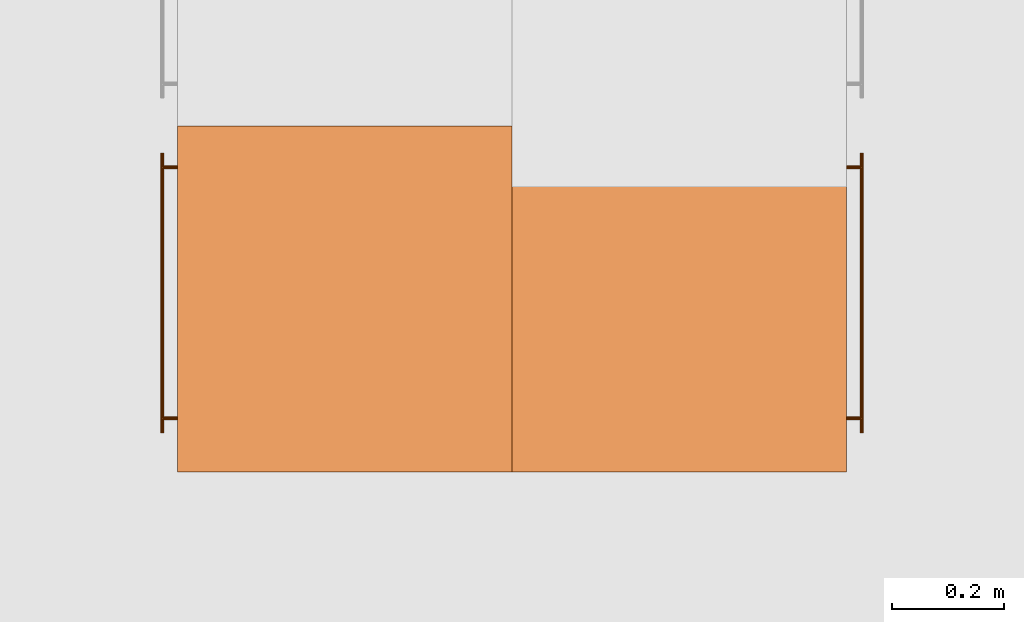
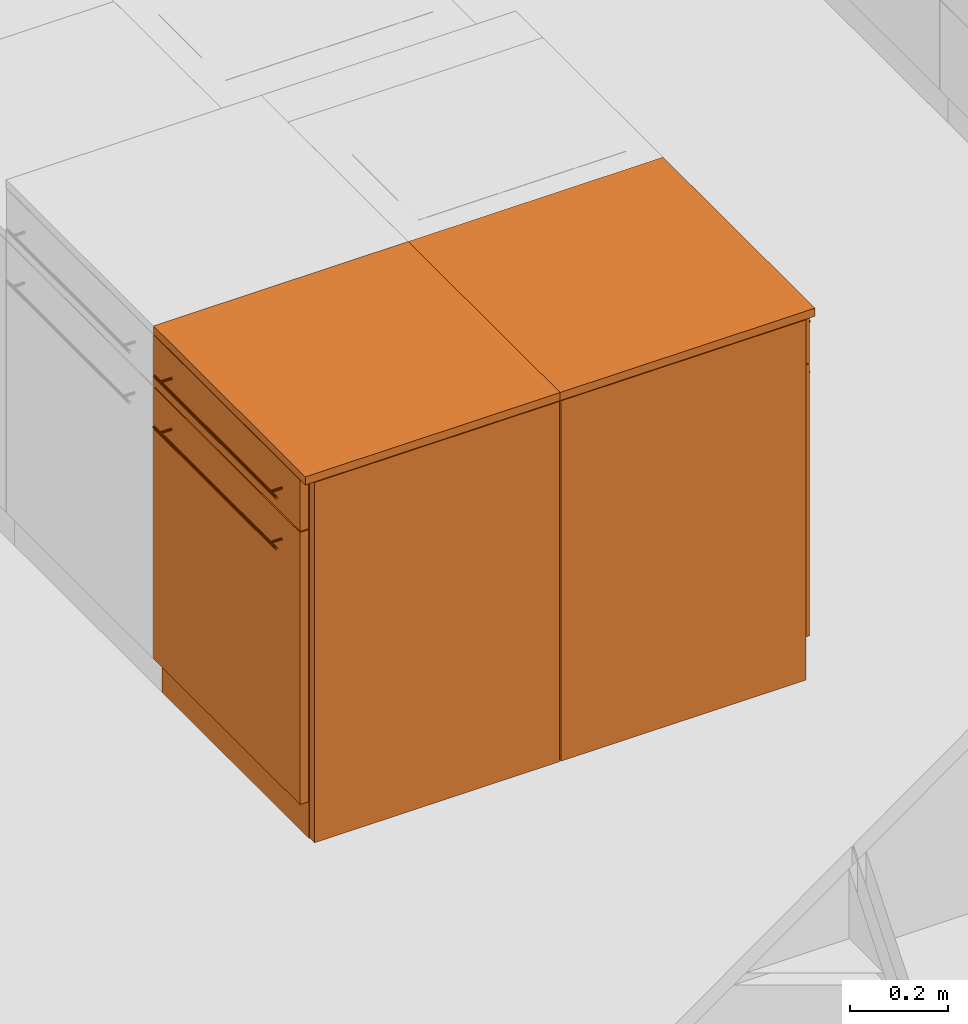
# One storey, part 142 of 167: 2 proxies.
"""IFC2X3 building model written with IfcOpenShell, lengths in millimetres."""

from ifc_helpers import new_model, entity, si_unit, converted_unit, derived_unit, money_unit, direction, frame, origin_with_axes, place, context, subcontext, project, spatial, open_shell, faceted_brep, surface_model, type_object, element, save


model = new_model("IFC2X3")

# Units and contexts
model_context = context("Model", 3, precision=0.01, world=origin_with_axes(), true_north=direction((0.0, 1.0)))
plan_context = context("Plan", 3, precision=0.01, world=origin_with_axes(), true_north=direction((0.0, 1.0)))
body_context = subcontext(model_context, "Body", "Model", "MODEL_VIEW")
ifc_project = project(units=[si_unit("LENGTHUNIT", "METRE", prefix="MILLI"), si_unit("AREAUNIT", "SQUARE_METRE"), si_unit("VOLUMEUNIT", "CUBIC_METRE"), converted_unit("PLANEANGLEUNIT", "DEGREE", entity("IfcPlaneAngleMeasure", 0.0174532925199), si_unit("PLANEANGLEUNIT", "RADIAN"), dimensions=[0, 0, 0, 0, 0, 0, 0]), si_unit("SOLIDANGLEUNIT", "STERADIAN"), money_unit("EUR"), converted_unit("TIMEUNIT", "Year", entity("IfcTimeMeasure", 31556926.0), si_unit("TIMEUNIT", "SECOND"), dimensions=[0, 0, 1, 0, 0, 0, 0]), si_unit("MASSUNIT", "GRAM", prefix="KILO"), si_unit("THERMODYNAMICTEMPERATUREUNIT", "DEGREE_CELSIUS"), si_unit("LUMINOUSINTENSITYUNIT", "LUMEN"), si_unit("ENERGYUNIT", "JOULE", prefix="MEGA"), derived_unit("THERMALCONDUCTANCEUNIT", [(si_unit("POWERUNIT", "WATT"), 1), (si_unit("LENGTHUNIT", "METRE"), -1), (si_unit("THERMODYNAMICTEMPERATUREUNIT", "KELVIN"), -1)]), derived_unit("SPECIFICHEATCAPACITYUNIT", [(si_unit("ENERGYUNIT", "JOULE"), 1), (si_unit("MASSUNIT", "GRAM", prefix="KILO"), -1), (si_unit("THERMODYNAMICTEMPERATUREUNIT", "KELVIN"), -1)]), derived_unit("MASSDENSITYUNIT", [(si_unit("MASSUNIT", "GRAM", prefix="KILO"), 1), (si_unit("VOLUMEUNIT", "CUBIC_METRE"), -1)])], contexts=[model_context, plan_context])

# Site, building, storey
site_placement = place(None, origin_with_axes())
site = spatial("IfcSite", under=ifc_project, at=site_placement, Name="Site", CompositionType="ELEMENT")
building_placement = place(site_placement, origin_with_axes())
building = spatial("IfcBuilding", under=site, at=building_placement, Name="Naam gebouw", CompositionType="ELEMENT")
storey_placement = place(building_placement, origin_with_axes())
storey = spatial("IfcBuildingStorey", under=building, at=storey_placement, Name="Begane grond", CompositionType="ELEMENT", Elevation=0.0)

# Proxies
building_element_proxy_type = type_object("IfcBuildingElementProxyType", Name="Kast basis 1D 24", PredefinedType="NOTDEFINED")
proxy_1_placement = place(storey_placement, frame((25475.0, 26466.7322881, 0.0), z_axis=(0.0, 0.0, 1.0), x_axis=(0.0, -1.0, 0.0)))
element("IfcBuildingElementProxy", 1, at=proxy_1_placement, inside=storey, type_object=building_element_proxy_type, Name="__Object-x", context=body_context, shape_type="SurfaceModel", body=[
    faceted_brep([(20.0, 20.0, 760.0), (580.0, 20.0, 760.0), (580.0, 20.0, 780.0), (20.0, 20.0, 780.0), (20.0, 580.0, 760.0), (580.0, 580.0, 760.0), (580.0, 580.0, 780.0), (20.0, 580.0, 780.0)], [[[0, 1, 2, 3]], [[0, 4, 5, 1]], [[1, 5, 6, 2]], [[3, 2, 6, 7]], [[4, 0, 3, 7]], [[5, 4, 7, 6]]]),
    faceted_brep([(0.0, 20.0, 0.0), (600.0, 20.0, 0.0), (600.0, 20.0, 90.0), (0.0, 20.0, 90.0), (0.0, 600.0, 0.0), (600.0, 600.0, 0.0), (600.0, 600.0, 90.0), (0.0, 600.0, 90.0)], [[[0, 1, 2, 3]], [[0, 4, 5, 1]], [[1, 5, 6, 2]], [[3, 2, 6, 7]], [[4, 0, 3, 7]], [[5, 4, 7, 6]]]),
    faceted_brep([(0.0, 20.0, 880.0), (20.0, 20.0, 880.0), (20.0, 20.0, 900.0), (0.0, 20.0, 900.0), (0.0, 600.0, 880.0), (20.0, 600.0, 880.0), (580.0, 600.0, 880.0), (600.0, 600.0, 880.0), (600.0, 20.0, 880.0), (580.0, 20.0, 880.0), (580.0, 20.0, 900.0), (600.0, 20.0, 900.0), (600.0, 600.0, 900.0), (580.0, 600.0, 900.0), (20.0, 600.0, 900.0), (0.0, 600.0, 900.0)], [[[0, 1, 2, 3]], [[0, 4, 5, 6, 7, 8, 9, 1]], [[1, 9, 10, 2]], [[3, 2, 10, 11, 12, 13, 14, 15]], [[4, 0, 3, 15]], [[5, 4, 15, 14]], [[6, 5, 14, 13]], [[7, 6, 13, 12]], [[8, 7, 12, 11]], [[9, 8, 11, 10]]]),
    faceted_brep([(0.0, 20.0, 90.0), (20.0, 20.0, 90.0), (20.0, 20.0, 110.0), (0.0, 20.0, 110.0), (0.0, 600.0, 90.0), (20.0, 600.0, 90.0), (580.0, 600.0, 90.0), (600.0, 600.0, 90.0), (600.0, 20.0, 90.0), (580.0, 20.0, 90.0), (580.0, 20.0, 110.0), (600.0, 20.0, 110.0), (600.0, 600.0, 110.0), (580.0, 600.0, 110.0), (20.0, 600.0, 110.0), (0.0, 600.0, 110.0)], [[[0, 1, 2, 3]], [[0, 4, 5, 6, 7, 8, 9, 1]], [[1, 9, 10, 2]], [[3, 2, 10, 11, 12, 13, 14, 15]], [[4, 0, 3, 15]], [[5, 4, 15, 14]], [[6, 5, 14, 13]], [[7, 6, 13, 12]], [[8, 7, 12, 11]], [[9, 8, 11, 10]]]),
    faceted_brep([(0.0, 20.0, 110.0), (20.0, 20.0, 110.0), (20.0, 20.0, 880.0), (0.0, 20.0, 880.0), (0.0, 600.0, 110.0), (600.0, 600.0, 110.0), (600.0, 20.0, 110.0), (580.0, 20.0, 110.0), (580.0, 580.0, 110.0), (20.0, 580.0, 110.0), (20.0, 580.0, 880.0), (580.0, 580.0, 880.0), (580.0, 20.0, 880.0), (600.0, 20.0, 880.0), (600.0, 600.0, 880.0), (0.0, 600.0, 880.0)], [[[0, 1, 2, 3]], [[0, 4, 5, 6, 7, 8, 9, 1]], [[1, 9, 10, 2]], [[3, 2, 10, 11, 12, 13, 14, 15]], [[4, 0, 3, 15]], [[5, 4, 15, 14]], [[6, 5, 14, 13]], [[7, 6, 13, 12]], [[8, 7, 12, 11]], [[9, 8, 11, 10]]]),
    faceted_brep([(580.0, 20.0, 410.0), (580.0, 580.0, 410.0), (580.0, 580.0, 430.0), (580.0, 20.0, 430.0), (20.0, 20.0, 410.0), (20.0, 580.0, 410.0), (20.0, 580.0, 430.0), (20.0, 20.0, 430.0)], [[[0, 1, 2, 3]], [[0, 4, 5, 1]], [[1, 5, 6, 2]], [[3, 2, 6, 7]], [[4, 0, 3, 7]], [[5, 4, 7, 6]]]),
    faceted_brep([(0.0, 0.0, 900.0), (620.0, 0.0, 900.0), (620.0, 0.0, 920.0), (0.0, 0.0, 920.0), (0.0, 600.0, 900.0), (620.0, 600.0, 900.0), (620.0, 600.0, 920.0), (0.0, 600.0, 920.0)], [[[0, 1, 2, 3]], [[0, 4, 5, 1]], [[1, 5, 6, 2]], [[3, 2, 6, 7]], [[4, 0, 3, 7]], [[5, 4, 7, 6]]]),
    faceted_brep([(1.5, 20.0, 771.5), (598.5, 20.0, 771.5), (598.5, 0.0, 771.5), (1.5, 0.0, 771.5), (1.5, 20.0, 898.5), (598.5, 20.0, 898.5), (598.5, 0.0, 898.5), (1.5, 0.0, 898.5)], [[[0, 1, 2, 3]], [[0, 4, 5, 1]], [[1, 5, 6, 2]], [[3, 2, 6, 7]], [[4, 0, 3, 7]], [[5, 4, 7, 6]]]),
    faceted_brep([(50.0, -28.1480502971, 832.228361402), (50.0, -29.1213203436, 832.878679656), (50.0, -29.7716385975, 833.851949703), (50.0, -30.0, 835.0), (50.0, -29.7716385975, 836.148050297), (50.0, -29.1213203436, 837.121320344), (50.0, -28.1480502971, 837.771638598), (50.0, -27.0, 838.0), (50.0, -25.8519497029, 837.771638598), (50.0, -24.8786796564, 837.121320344), (50.0, -24.2283614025, 836.148050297), (50.0, -24.0, 835.0), (50.0, -24.2283614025, 833.851949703), (50.0, -24.8786796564, 832.878679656), (50.0, -25.8519497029, 832.228361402), (50.0, -27.0, 832.0), (550.0, -28.1480502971, 832.228361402), (550.0, -29.1213203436, 832.878679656), (550.0, -29.7716385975, 833.851949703), (550.0, -30.0, 835.0), (550.0, -29.7716385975, 836.148050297), (550.0, -29.1213203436, 837.121320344), (550.0, -28.1480502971, 837.771638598), (550.0, -27.0, 838.0), (550.0, -25.8519497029, 837.771638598), (550.0, -24.8786796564, 837.121320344), (550.0, -24.2283614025, 836.148050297), (550.0, -24.0, 835.0), (550.0, -24.2283614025, 833.851949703), (550.0, -24.8786796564, 832.878679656), (550.0, -25.8519497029, 832.228361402), (550.0, -27.0, 832.0)], [[[0, 1, 2, 3, 4, 5, 6, 7, 8, 9, 10, 11, 12, 13, 14, 15]], [[1, 0, 16, 17]], [[2, 1, 17, 18]], [[3, 2, 18, 19]], [[4, 3, 19, 20]], [[5, 4, 20, 21]], [[6, 5, 21, 22]], [[7, 6, 22, 23]], [[8, 7, 23, 24]], [[9, 8, 24, 25]], [[10, 9, 25, 26]], [[11, 10, 26, 27]], [[12, 11, 27, 28]], [[13, 12, 28, 29]], [[14, 13, 29, 30]], [[15, 14, 30, 31]], [[0, 15, 31, 16]], [[16, 31, 30, 29, 28, 27, 26, 25, 24, 23, 22, 21, 20, 19, 18, 17]]]),
    surface_model("IfcShellBasedSurfaceModel", [(72.6903011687, -24.156637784, 834.043291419), (72.5, -24.0, 835.0), (72.5, 0.0, 835.0), (72.6903011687, 0.0, 834.043291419), (72.6903011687, -24.156637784, 835.956708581), (72.6903011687, 0.0, 835.956708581), (73.232233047, 0.0, 836.767766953), (74.0432914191, 0.0, 837.309698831), (75.0, 0.0, 837.5), (75.9567085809, 0.0, 837.309698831), (76.767766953, 0.0, 836.767766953), (77.3096988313, 0.0, 835.956708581), (77.5, 0.0, 835.0), (77.3096988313, 0.0, 834.043291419), (76.767766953, 0.0, 833.232233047), (75.9567085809, 0.0, 832.690301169), (75.0, 0.0, 832.5), (74.0432914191, 0.0, 832.690301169), (73.232233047, 0.0, 833.232233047), (73.232233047, -24.5761600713, 833.232233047), (73.232233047, -24.5761600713, 836.767766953), (74.0432914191, -25.0855049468, 837.309698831), (75.0, -25.3416876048, 837.5), (75.9567085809, -25.0855049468, 837.309698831), (76.767766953, -24.5761600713, 836.767766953), (77.3096988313, -24.156637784, 835.956708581), (77.5, -24.0, 835.0), (77.3096988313, -24.156637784, 834.043291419), (76.767766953, -24.5761600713, 833.232233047), (75.9567085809, -25.0855049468, 832.690301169), (75.0, -25.3416876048, 832.5), (74.0432914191, -25.0855049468, 832.690301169)], [open_shell([[[0, 1, 2, 3]], [[1, 4, 5, 2]], [[3, 2, 5, 6, 7, 8, 9, 10, 11, 12, 13, 14, 15, 16, 17, 18]], [[19, 0, 3, 18]], [[4, 20, 6, 5]], [[20, 21, 7, 6]], [[21, 22, 8, 7]], [[22, 23, 9, 8]], [[23, 24, 10, 9]], [[24, 25, 11, 10]], [[25, 26, 12, 11]], [[26, 27, 13, 12]], [[27, 28, 14, 13]], [[28, 29, 15, 14]], [[29, 30, 16, 15]], [[30, 31, 17, 16]], [[31, 19, 18, 17]]])]),
    surface_model("IfcShellBasedSurfaceModel", [(522.690301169, -24.156637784, 834.043291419), (522.5, -24.0, 835.0), (522.5, 0.0, 835.0), (522.690301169, 0.0, 834.043291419), (522.690301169, -24.156637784, 835.956708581), (522.690301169, 0.0, 835.956708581), (523.232233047, 0.0, 836.767766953), (524.043291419, 0.0, 837.309698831), (525.0, 0.0, 837.5), (525.956708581, 0.0, 837.309698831), (526.767766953, 0.0, 836.767766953), (527.309698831, 0.0, 835.956708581), (527.5, 0.0, 835.0), (527.309698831, 0.0, 834.043291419), (526.767766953, 0.0, 833.232233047), (525.956708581, 0.0, 832.690301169), (525.0, 0.0, 832.5), (524.043291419, 0.0, 832.690301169), (523.232233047, 0.0, 833.232233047), (523.232233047, -24.5761600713, 833.232233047), (523.232233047, -24.5761600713, 836.767766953), (524.043291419, -25.0855049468, 837.309698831), (525.0, -25.3416876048, 837.5), (525.956708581, -25.0855049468, 837.309698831), (526.767766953, -24.5761600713, 836.767766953), (527.309698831, -24.156637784, 835.956708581), (527.5, -24.0, 835.0), (527.309698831, -24.156637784, 834.043291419), (526.767766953, -24.5761600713, 833.232233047), (525.956708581, -25.0855049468, 832.690301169), (525.0, -25.3416876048, 832.5), (524.043291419, -25.0855049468, 832.690301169)], [open_shell([[[0, 1, 2, 3]], [[1, 4, 5, 2]], [[3, 2, 5, 6, 7, 8, 9, 10, 11, 12, 13, 14, 15, 16, 17, 18]], [[19, 0, 3, 18]], [[4, 20, 6, 5]], [[20, 21, 7, 6]], [[21, 22, 8, 7]], [[22, 23, 9, 8]], [[23, 24, 10, 9]], [[24, 25, 11, 10]], [[25, 26, 12, 11]], [[26, 27, 13, 12]], [[27, 28, 14, 13]], [[28, 29, 15, 14]], [[29, 30, 16, 15]], [[30, 31, 17, 16]], [[31, 19, 18, 17]]])]),
    faceted_brep([(1.5, 20.0, 91.5), (598.5, 20.0, 91.5), (598.5, 0.0, 91.5), (1.5, 0.0, 91.5), (1.5, 20.0, 768.5), (598.5, 20.0, 768.5), (598.5, 0.0, 768.5), (1.5, 0.0, 768.5)], [[[0, 1, 2, 3]], [[0, 4, 5, 1]], [[1, 5, 6, 2]], [[3, 2, 6, 7]], [[4, 0, 3, 7]], [[5, 4, 7, 6]]]),
    faceted_brep([(48.5, -28.1480502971, 704.694261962), (48.5, -29.1213203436, 705.344580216), (48.5, -29.7716385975, 706.317850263), (48.5, -30.0, 707.46590056), (48.5, -29.7716385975, 708.613950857), (48.5, -29.1213203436, 709.587220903), (48.5, -28.1480502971, 710.237539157), (48.5, -27.0, 710.46590056), (48.5, -25.8519497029, 710.237539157), (48.5, -24.8786796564, 709.587220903), (48.5, -24.2283614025, 708.613950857), (48.5, -24.0, 707.46590056), (48.5, -24.2283614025, 706.317850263), (48.5, -24.8786796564, 705.344580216), (48.5, -25.8519497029, 704.694261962), (48.5, -27.0, 704.46590056), (548.5, -28.1480502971, 704.694261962), (548.5, -29.1213203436, 705.344580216), (548.5, -29.7716385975, 706.317850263), (548.5, -30.0, 707.46590056), (548.5, -29.7716385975, 708.613950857), (548.5, -29.1213203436, 709.587220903), (548.5, -28.1480502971, 710.237539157), (548.5, -27.0, 710.46590056), (548.5, -25.8519497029, 710.237539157), (548.5, -24.8786796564, 709.587220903), (548.5, -24.2283614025, 708.613950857), (548.5, -24.0, 707.46590056), (548.5, -24.2283614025, 706.317850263), (548.5, -24.8786796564, 705.344580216), (548.5, -25.8519497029, 704.694261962), (548.5, -27.0, 704.46590056)], [[[0, 1, 2, 3, 4, 5, 6, 7, 8, 9, 10, 11, 12, 13, 14, 15]], [[1, 0, 16, 17]], [[2, 1, 17, 18]], [[3, 2, 18, 19]], [[4, 3, 19, 20]], [[5, 4, 20, 21]], [[6, 5, 21, 22]], [[7, 6, 22, 23]], [[8, 7, 23, 24]], [[9, 8, 24, 25]], [[10, 9, 25, 26]], [[11, 10, 26, 27]], [[12, 11, 27, 28]], [[13, 12, 28, 29]], [[14, 13, 29, 30]], [[15, 14, 30, 31]], [[0, 15, 31, 16]], [[16, 31, 30, 29, 28, 27, 26, 25, 24, 23, 22, 21, 20, 19, 18, 17]]]),
    surface_model("IfcShellBasedSurfaceModel", [(71.1903011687, -24.156637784, 706.509191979), (71.0, -24.0, 707.46590056), (71.0, 0.0, 707.46590056), (71.1903011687, 0.0, 706.509191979), (71.1903011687, -24.156637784, 708.422609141), (71.1903011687, 0.0, 708.422609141), (71.732233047, 0.0, 709.233667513), (72.5432914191, 0.0, 709.775599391), (73.5, 0.0, 709.96590056), (74.4567085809, 0.0, 709.775599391), (75.267766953, 0.0, 709.233667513), (75.8096988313, 0.0, 708.422609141), (76.0, 0.0, 707.46590056), (75.8096988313, 0.0, 706.509191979), (75.267766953, 0.0, 705.698133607), (74.4567085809, 0.0, 705.156201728), (73.5, 0.0, 704.96590056), (72.5432914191, 0.0, 705.156201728), (71.732233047, 0.0, 705.698133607), (71.732233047, -24.5761600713, 705.698133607), (71.732233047, -24.5761600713, 709.233667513), (72.5432914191, -25.0855049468, 709.775599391), (73.5, -25.3416876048, 709.96590056), (74.4567085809, -25.0855049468, 709.775599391), (75.267766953, -24.5761600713, 709.233667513), (75.8096988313, -24.156637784, 708.422609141), (76.0, -24.0, 707.46590056), (75.8096988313, -24.156637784, 706.509191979), (75.267766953, -24.5761600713, 705.698133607), (74.4567085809, -25.0855049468, 705.156201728), (73.5, -25.3416876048, 704.96590056), (72.5432914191, -25.0855049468, 705.156201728)], [open_shell([[[0, 1, 2, 3]], [[1, 4, 5, 2]], [[3, 2, 5, 6, 7, 8, 9, 10, 11, 12, 13, 14, 15, 16, 17, 18]], [[19, 0, 3, 18]], [[4, 20, 6, 5]], [[20, 21, 7, 6]], [[21, 22, 8, 7]], [[22, 23, 9, 8]], [[23, 24, 10, 9]], [[24, 25, 11, 10]], [[25, 26, 12, 11]], [[26, 27, 13, 12]], [[27, 28, 14, 13]], [[28, 29, 15, 14]], [[29, 30, 16, 15]], [[30, 31, 17, 16]], [[31, 19, 18, 17]]])]),
    surface_model("IfcShellBasedSurfaceModel", [(521.190301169, -24.156637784, 706.509191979), (521.0, -24.0, 707.46590056), (521.0, 0.0, 707.46590056), (521.190301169, 0.0, 706.509191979), (521.190301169, -24.156637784, 708.422609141), (521.190301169, 0.0, 708.422609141), (521.732233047, 0.0, 709.233667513), (522.543291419, 0.0, 709.775599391), (523.5, 0.0, 709.96590056), (524.456708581, 0.0, 709.775599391), (525.267766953, 0.0, 709.233667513), (525.809698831, 0.0, 708.422609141), (526.0, 0.0, 707.46590056), (525.809698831, 0.0, 706.509191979), (525.267766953, 0.0, 705.698133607), (524.456708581, 0.0, 705.156201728), (523.5, 0.0, 704.96590056), (522.543291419, 0.0, 705.156201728), (521.732233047, 0.0, 705.698133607), (521.732233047, -24.5761600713, 705.698133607), (521.732233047, -24.5761600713, 709.233667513), (522.543291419, -25.0855049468, 709.775599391), (523.5, -25.3416876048, 709.96590056), (524.456708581, -25.0855049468, 709.775599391), (525.267766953, -24.5761600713, 709.233667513), (525.809698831, -24.156637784, 708.422609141), (526.0, -24.0, 707.46590056), (525.809698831, -24.156637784, 706.509191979), (525.267766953, -24.5761600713, 705.698133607), (524.456708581, -25.0855049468, 705.156201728), (523.5, -25.3416876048, 704.96590056), (522.543291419, -25.0855049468, 705.156201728)], [open_shell([[[0, 1, 2, 3]], [[1, 4, 5, 2]], [[3, 2, 5, 6, 7, 8, 9, 10, 11, 12, 13, 14, 15, 16, 17, 18]], [[19, 0, 3, 18]], [[4, 20, 6, 5]], [[20, 21, 7, 6]], [[21, 22, 8, 7]], [[22, 23, 9, 8]], [[23, 24, 10, 9]], [[24, 25, 11, 10]], [[25, 26, 12, 11]], [[26, 27, 13, 12]], [[27, 28, 14, 13]], [[28, 29, 15, 14]], [[29, 30, 16, 15]], [[30, 31, 17, 16]], [[31, 19, 18, 17]]])]),
    faceted_brep([(600.0, 21.5, 1.5), (600.0, 598.5, 1.5), (620.0, 598.5, 1.5), (620.0, 21.5, 1.5), (600.0, 21.5, 898.5), (600.0, 598.5, 898.5), (620.0, 598.5, 898.5), (620.0, 21.5, 898.5)], [[[0, 1, 2, 3]], [[0, 4, 5, 1]], [[1, 5, 6, 2]], [[3, 2, 6, 7]], [[4, 0, 3, 7]], [[5, 4, 7, 6]]]),
])
proxy_2_placement = place(storey_placement, frame((26675.0, 26466.7322881, 0.0), z_axis=(0.0, 0.0, 1.0), x_axis=(0.0, 1.0, 0.0)))
element("IfcBuildingElementProxy", 2, at=proxy_2_placement, inside=storey, type_object=building_element_proxy_type, Name="__Object-x", context=body_context, shape_type="SurfaceModel", body=[
    faceted_brep([(-20.0, 20.0, 760.0), (-20.0, 20.0, 780.0), (-580.0, 20.0, 780.0), (-580.0, 20.0, 760.0), (-20.0, 580.0, 760.0), (-20.0, 580.0, 780.0), (-580.0, 580.0, 780.0), (-580.0, 580.0, 760.0)], [[[0, 1, 2, 3]], [[4, 5, 1, 0]], [[1, 5, 6, 2]], [[3, 2, 6, 7]], [[0, 3, 7, 4]], [[7, 6, 5, 4]]]),
    faceted_brep([(0.0, 20.0, 0.0), (0.0, 20.0, 90.0), (-600.0, 20.0, 90.0), (-600.0, 20.0, 0.0), (0.0, 600.0, 0.0), (0.0, 600.0, 90.0), (-600.0, 600.0, 90.0), (-600.0, 600.0, 0.0)], [[[0, 1, 2, 3]], [[4, 5, 1, 0]], [[1, 5, 6, 2]], [[3, 2, 6, 7]], [[0, 3, 7, 4]], [[7, 6, 5, 4]]]),
    faceted_brep([(0.0, 20.0, 880.0), (0.0, 20.0, 900.0), (-20.0, 20.0, 900.0), (-20.0, 20.0, 880.0), (0.0, 600.0, 880.0), (0.0, 600.0, 900.0), (-20.0, 600.0, 900.0), (-580.0, 600.0, 900.0), (-600.0, 600.0, 900.0), (-600.0, 20.0, 900.0), (-580.0, 20.0, 900.0), (-580.0, 20.0, 880.0), (-600.0, 20.0, 880.0), (-600.0, 600.0, 880.0), (-580.0, 600.0, 880.0), (-20.0, 600.0, 880.0)], [[[0, 1, 2, 3]], [[4, 5, 1, 0]], [[1, 5, 6, 7, 8, 9, 10, 2]], [[3, 2, 10, 11]], [[0, 3, 11, 12, 13, 14, 15, 4]], [[15, 6, 5, 4]], [[14, 7, 6, 15]], [[13, 8, 7, 14]], [[12, 9, 8, 13]], [[11, 10, 9, 12]]]),
    faceted_brep([(0.0, 20.0, 90.0), (0.0, 20.0, 110.0), (-20.0, 20.0, 110.0), (-20.0, 20.0, 90.0), (0.0, 600.0, 90.0), (0.0, 600.0, 110.0), (-20.0, 600.0, 110.0), (-580.0, 600.0, 110.0), (-600.0, 600.0, 110.0), (-600.0, 20.0, 110.0), (-580.0, 20.0, 110.0), (-580.0, 20.0, 90.0), (-600.0, 20.0, 90.0), (-600.0, 600.0, 90.0), (-580.0, 600.0, 90.0), (-20.0, 600.0, 90.0)], [[[0, 1, 2, 3]], [[4, 5, 1, 0]], [[1, 5, 6, 7, 8, 9, 10, 2]], [[3, 2, 10, 11]], [[0, 3, 11, 12, 13, 14, 15, 4]], [[15, 6, 5, 4]], [[14, 7, 6, 15]], [[13, 8, 7, 14]], [[12, 9, 8, 13]], [[11, 10, 9, 12]]]),
    faceted_brep([(0.0, 20.0, 110.0), (0.0, 20.0, 880.0), (-20.0, 20.0, 880.0), (-20.0, 20.0, 110.0), (0.0, 600.0, 110.0), (0.0, 600.0, 880.0), (-600.0, 600.0, 880.0), (-600.0, 20.0, 880.0), (-580.0, 20.0, 880.0), (-580.0, 580.0, 880.0), (-20.0, 580.0, 880.0), (-20.0, 580.0, 110.0), (-580.0, 580.0, 110.0), (-580.0, 20.0, 110.0), (-600.0, 20.0, 110.0), (-600.0, 600.0, 110.0)], [[[0, 1, 2, 3]], [[4, 5, 1, 0]], [[1, 5, 6, 7, 8, 9, 10, 2]], [[3, 2, 10, 11]], [[0, 3, 11, 12, 13, 14, 15, 4]], [[15, 6, 5, 4]], [[14, 7, 6, 15]], [[13, 8, 7, 14]], [[12, 9, 8, 13]], [[11, 10, 9, 12]]]),
    faceted_brep([(-580.0, 20.0, 410.0), (-580.0, 20.0, 430.0), (-580.0, 580.0, 430.0), (-580.0, 580.0, 410.0), (-20.0, 20.0, 410.0), (-20.0, 20.0, 430.0), (-20.0, 580.0, 430.0), (-20.0, 580.0, 410.0)], [[[0, 1, 2, 3]], [[4, 5, 1, 0]], [[1, 5, 6, 2]], [[3, 2, 6, 7]], [[0, 3, 7, 4]], [[7, 6, 5, 4]]]),
    faceted_brep([(0.0, 0.0, 900.0), (0.0, 0.0, 920.0), (-620.0, 0.0, 920.0), (-620.0, 0.0, 900.0), (0.0, 600.0, 900.0), (0.0, 600.0, 920.0), (-620.0, 600.0, 920.0), (-620.0, 600.0, 900.0)], [[[0, 1, 2, 3]], [[4, 5, 1, 0]], [[1, 5, 6, 2]], [[3, 2, 6, 7]], [[0, 3, 7, 4]], [[7, 6, 5, 4]]]),
    faceted_brep([(-1.5, 20.0, 771.5), (-1.5, 0.0, 771.5), (-598.5, 0.0, 771.5), (-598.5, 20.0, 771.5), (-1.5, 20.0, 898.5), (-1.5, 0.0, 898.5), (-598.5, 0.0, 898.5), (-598.5, 20.0, 898.5)], [[[0, 1, 2, 3]], [[4, 5, 1, 0]], [[1, 5, 6, 2]], [[3, 2, 6, 7]], [[0, 3, 7, 4]], [[7, 6, 5, 4]]]),
    faceted_brep([(-50.0, -28.1480502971, 832.228361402), (-50.0, -27.0, 832.0), (-50.0, -25.8519497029, 832.228361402), (-50.0, -24.8786796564, 832.878679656), (-50.0, -24.2283614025, 833.851949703), (-50.0, -24.0, 835.0), (-50.0, -24.2283614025, 836.148050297), (-50.0, -24.8786796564, 837.121320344), (-50.0, -25.8519497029, 837.771638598), (-50.0, -27.0, 838.0), (-50.0, -28.1480502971, 837.771638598), (-50.0, -29.1213203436, 837.121320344), (-50.0, -29.7716385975, 836.148050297), (-50.0, -30.0, 835.0), (-50.0, -29.7716385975, 833.851949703), (-50.0, -29.1213203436, 832.878679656), (-550.0, -28.1480502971, 832.228361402), (-550.0, -27.0, 832.0), (-550.0, -25.8519497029, 832.228361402), (-550.0, -24.8786796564, 832.878679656), (-550.0, -24.2283614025, 833.851949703), (-550.0, -24.0, 835.0), (-550.0, -24.2283614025, 836.148050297), (-550.0, -24.8786796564, 837.121320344), (-550.0, -25.8519497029, 837.771638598), (-550.0, -27.0, 838.0), (-550.0, -28.1480502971, 837.771638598), (-550.0, -29.1213203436, 837.121320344), (-550.0, -29.7716385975, 836.148050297), (-550.0, -30.0, 835.0), (-550.0, -29.7716385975, 833.851949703), (-550.0, -29.1213203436, 832.878679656)], [[[0, 1, 2, 3, 4, 5, 6, 7, 8, 9, 10, 11, 12, 13, 14, 15]], [[0, 16, 17, 1]], [[1, 17, 18, 2]], [[2, 18, 19, 3]], [[3, 19, 20, 4]], [[4, 20, 21, 5]], [[5, 21, 22, 6]], [[6, 22, 23, 7]], [[7, 23, 24, 8]], [[8, 24, 25, 9]], [[9, 25, 26, 10]], [[10, 26, 27, 11]], [[11, 27, 28, 12]], [[12, 28, 29, 13]], [[13, 29, 30, 14]], [[14, 30, 31, 15]], [[15, 31, 16, 0]], [[16, 31, 30, 29, 28, 27, 26, 25, 24, 23, 22, 21, 20, 19, 18, 17]]]),
    surface_model("IfcShellBasedSurfaceModel", [(-72.6903011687, -24.156637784, 834.043291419), (-72.6903011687, 0.0, 834.043291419), (-72.5, 0.0, 835.0), (-72.5, -24.0, 835.0), (-73.232233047, -24.5761600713, 833.232233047), (-73.232233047, 0.0, 833.232233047), (-74.0432914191, 0.0, 832.690301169), (-75.0, 0.0, 832.5), (-75.9567085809, 0.0, 832.690301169), (-76.767766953, 0.0, 833.232233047), (-77.3096988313, 0.0, 834.043291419), (-77.5, 0.0, 835.0), (-77.3096988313, 0.0, 835.956708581), (-76.767766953, 0.0, 836.767766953), (-75.9567085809, 0.0, 837.309698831), (-75.0, 0.0, 837.5), (-74.0432914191, 0.0, 837.309698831), (-73.232233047, 0.0, 836.767766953), (-72.6903011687, 0.0, 835.956708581), (-72.6903011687, -24.156637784, 835.956708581), (-74.0432914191, -25.0855049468, 832.690301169), (-75.0, -25.3416876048, 832.5), (-75.9567085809, -25.0855049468, 832.690301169), (-76.767766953, -24.5761600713, 833.232233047), (-77.3096988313, -24.156637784, 834.043291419), (-77.5, -24.0, 835.0), (-77.3096988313, -24.156637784, 835.956708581), (-76.767766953, -24.5761600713, 836.767766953), (-75.9567085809, -25.0855049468, 837.309698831), (-75.0, -25.3416876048, 837.5), (-74.0432914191, -25.0855049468, 837.309698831), (-73.232233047, -24.5761600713, 836.767766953)], [open_shell([[[0, 1, 2, 3]], [[4, 5, 1, 0]], [[1, 5, 6, 7, 8, 9, 10, 11, 12, 13, 14, 15, 16, 17, 18, 2]], [[3, 2, 18, 19]], [[20, 6, 5, 4]], [[21, 7, 6, 20]], [[22, 8, 7, 21]], [[23, 9, 8, 22]], [[24, 10, 9, 23]], [[25, 11, 10, 24]], [[26, 12, 11, 25]], [[27, 13, 12, 26]], [[28, 14, 13, 27]], [[29, 15, 14, 28]], [[30, 16, 15, 29]], [[31, 17, 16, 30]], [[19, 18, 17, 31]]])]),
    surface_model("IfcShellBasedSurfaceModel", [(-522.690301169, -24.156637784, 834.043291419), (-522.690301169, 0.0, 834.043291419), (-522.5, 0.0, 835.0), (-522.5, -24.0, 835.0), (-523.232233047, -24.5761600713, 833.232233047), (-523.232233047, 0.0, 833.232233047), (-524.043291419, 0.0, 832.690301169), (-525.0, 0.0, 832.5), (-525.956708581, 0.0, 832.690301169), (-526.767766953, 0.0, 833.232233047), (-527.309698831, 0.0, 834.043291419), (-527.5, 0.0, 835.0), (-527.309698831, 0.0, 835.956708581), (-526.767766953, 0.0, 836.767766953), (-525.956708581, 0.0, 837.309698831), (-525.0, 0.0, 837.5), (-524.043291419, 0.0, 837.309698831), (-523.232233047, 0.0, 836.767766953), (-522.690301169, 0.0, 835.956708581), (-522.690301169, -24.156637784, 835.956708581), (-524.043291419, -25.0855049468, 832.690301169), (-525.0, -25.3416876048, 832.5), (-525.956708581, -25.0855049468, 832.690301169), (-526.767766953, -24.5761600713, 833.232233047), (-527.309698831, -24.156637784, 834.043291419), (-527.5, -24.0, 835.0), (-527.309698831, -24.156637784, 835.956708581), (-526.767766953, -24.5761600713, 836.767766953), (-525.956708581, -25.0855049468, 837.309698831), (-525.0, -25.3416876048, 837.5), (-524.043291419, -25.0855049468, 837.309698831), (-523.232233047, -24.5761600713, 836.767766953)], [open_shell([[[0, 1, 2, 3]], [[4, 5, 1, 0]], [[1, 5, 6, 7, 8, 9, 10, 11, 12, 13, 14, 15, 16, 17, 18, 2]], [[3, 2, 18, 19]], [[20, 6, 5, 4]], [[21, 7, 6, 20]], [[22, 8, 7, 21]], [[23, 9, 8, 22]], [[24, 10, 9, 23]], [[25, 11, 10, 24]], [[26, 12, 11, 25]], [[27, 13, 12, 26]], [[28, 14, 13, 27]], [[29, 15, 14, 28]], [[30, 16, 15, 29]], [[31, 17, 16, 30]], [[19, 18, 17, 31]]])]),
    faceted_brep([(-1.5, 20.0, 91.5), (-1.5, 0.0, 91.5), (-598.5, 0.0, 91.5), (-598.5, 20.0, 91.5), (-1.5, 20.0, 768.5), (-1.5, 0.0, 768.5), (-598.5, 0.0, 768.5), (-598.5, 20.0, 768.5)], [[[0, 1, 2, 3]], [[4, 5, 1, 0]], [[1, 5, 6, 2]], [[3, 2, 6, 7]], [[0, 3, 7, 4]], [[7, 6, 5, 4]]]),
    faceted_brep([(-48.5, -28.1480502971, 704.694261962), (-48.5, -27.0, 704.46590056), (-48.5, -25.8519497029, 704.694261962), (-48.5, -24.8786796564, 705.344580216), (-48.5, -24.2283614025, 706.317850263), (-48.5, -24.0, 707.46590056), (-48.5, -24.2283614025, 708.613950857), (-48.5, -24.8786796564, 709.587220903), (-48.5, -25.8519497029, 710.237539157), (-48.5, -27.0, 710.46590056), (-48.5, -28.1480502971, 710.237539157), (-48.5, -29.1213203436, 709.587220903), (-48.5, -29.7716385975, 708.613950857), (-48.5, -30.0, 707.46590056), (-48.5, -29.7716385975, 706.317850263), (-48.5, -29.1213203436, 705.344580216), (-548.5, -28.1480502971, 704.694261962), (-548.5, -27.0, 704.46590056), (-548.5, -25.8519497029, 704.694261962), (-548.5, -24.8786796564, 705.344580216), (-548.5, -24.2283614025, 706.317850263), (-548.5, -24.0, 707.46590056), (-548.5, -24.2283614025, 708.613950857), (-548.5, -24.8786796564, 709.587220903), (-548.5, -25.8519497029, 710.237539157), (-548.5, -27.0, 710.46590056), (-548.5, -28.1480502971, 710.237539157), (-548.5, -29.1213203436, 709.587220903), (-548.5, -29.7716385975, 708.613950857), (-548.5, -30.0, 707.46590056), (-548.5, -29.7716385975, 706.317850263), (-548.5, -29.1213203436, 705.344580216)], [[[0, 1, 2, 3, 4, 5, 6, 7, 8, 9, 10, 11, 12, 13, 14, 15]], [[0, 16, 17, 1]], [[1, 17, 18, 2]], [[2, 18, 19, 3]], [[3, 19, 20, 4]], [[4, 20, 21, 5]], [[5, 21, 22, 6]], [[6, 22, 23, 7]], [[7, 23, 24, 8]], [[8, 24, 25, 9]], [[9, 25, 26, 10]], [[10, 26, 27, 11]], [[11, 27, 28, 12]], [[12, 28, 29, 13]], [[13, 29, 30, 14]], [[14, 30, 31, 15]], [[15, 31, 16, 0]], [[16, 31, 30, 29, 28, 27, 26, 25, 24, 23, 22, 21, 20, 19, 18, 17]]]),
    surface_model("IfcShellBasedSurfaceModel", [(-71.1903011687, -24.156637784, 706.509191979), (-71.1903011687, 0.0, 706.509191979), (-71.0, 0.0, 707.46590056), (-71.0, -24.0, 707.46590056), (-71.732233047, -24.5761600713, 705.698133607), (-71.732233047, 0.0, 705.698133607), (-72.5432914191, 0.0, 705.156201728), (-73.5, 0.0, 704.96590056), (-74.4567085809, 0.0, 705.156201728), (-75.267766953, 0.0, 705.698133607), (-75.8096988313, 0.0, 706.509191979), (-76.0, 0.0, 707.46590056), (-75.8096988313, 0.0, 708.422609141), (-75.267766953, 0.0, 709.233667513), (-74.4567085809, 0.0, 709.775599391), (-73.5, 0.0, 709.96590056), (-72.5432914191, 0.0, 709.775599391), (-71.732233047, 0.0, 709.233667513), (-71.1903011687, 0.0, 708.422609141), (-71.1903011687, -24.156637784, 708.422609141), (-72.5432914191, -25.0855049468, 705.156201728), (-73.5, -25.3416876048, 704.96590056), (-74.4567085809, -25.0855049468, 705.156201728), (-75.267766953, -24.5761600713, 705.698133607), (-75.8096988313, -24.156637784, 706.509191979), (-76.0, -24.0, 707.46590056), (-75.8096988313, -24.156637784, 708.422609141), (-75.267766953, -24.5761600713, 709.233667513), (-74.4567085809, -25.0855049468, 709.775599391), (-73.5, -25.3416876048, 709.96590056), (-72.5432914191, -25.0855049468, 709.775599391), (-71.732233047, -24.5761600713, 709.233667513)], [open_shell([[[0, 1, 2, 3]], [[4, 5, 1, 0]], [[1, 5, 6, 7, 8, 9, 10, 11, 12, 13, 14, 15, 16, 17, 18, 2]], [[3, 2, 18, 19]], [[20, 6, 5, 4]], [[21, 7, 6, 20]], [[22, 8, 7, 21]], [[23, 9, 8, 22]], [[24, 10, 9, 23]], [[25, 11, 10, 24]], [[26, 12, 11, 25]], [[27, 13, 12, 26]], [[28, 14, 13, 27]], [[29, 15, 14, 28]], [[30, 16, 15, 29]], [[31, 17, 16, 30]], [[19, 18, 17, 31]]])]),
    surface_model("IfcShellBasedSurfaceModel", [(-521.190301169, -24.156637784, 706.509191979), (-521.190301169, 0.0, 706.509191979), (-521.0, 0.0, 707.46590056), (-521.0, -24.0, 707.46590056), (-521.732233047, -24.5761600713, 705.698133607), (-521.732233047, 0.0, 705.698133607), (-522.543291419, 0.0, 705.156201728), (-523.5, 0.0, 704.96590056), (-524.456708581, 0.0, 705.156201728), (-525.267766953, 0.0, 705.698133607), (-525.809698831, 0.0, 706.509191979), (-526.0, 0.0, 707.46590056), (-525.809698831, 0.0, 708.422609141), (-525.267766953, 0.0, 709.233667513), (-524.456708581, 0.0, 709.775599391), (-523.5, 0.0, 709.96590056), (-522.543291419, 0.0, 709.775599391), (-521.732233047, 0.0, 709.233667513), (-521.190301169, 0.0, 708.422609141), (-521.190301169, -24.156637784, 708.422609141), (-522.543291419, -25.0855049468, 705.156201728), (-523.5, -25.3416876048, 704.96590056), (-524.456708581, -25.0855049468, 705.156201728), (-525.267766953, -24.5761600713, 705.698133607), (-525.809698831, -24.156637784, 706.509191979), (-526.0, -24.0, 707.46590056), (-525.809698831, -24.156637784, 708.422609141), (-525.267766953, -24.5761600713, 709.233667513), (-524.456708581, -25.0855049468, 709.775599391), (-523.5, -25.3416876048, 709.96590056), (-522.543291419, -25.0855049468, 709.775599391), (-521.732233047, -24.5761600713, 709.233667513)], [open_shell([[[0, 1, 2, 3]], [[4, 5, 1, 0]], [[1, 5, 6, 7, 8, 9, 10, 11, 12, 13, 14, 15, 16, 17, 18, 2]], [[3, 2, 18, 19]], [[20, 6, 5, 4]], [[21, 7, 6, 20]], [[22, 8, 7, 21]], [[23, 9, 8, 22]], [[24, 10, 9, 23]], [[25, 11, 10, 24]], [[26, 12, 11, 25]], [[27, 13, 12, 26]], [[28, 14, 13, 27]], [[29, 15, 14, 28]], [[30, 16, 15, 29]], [[31, 17, 16, 30]], [[19, 18, 17, 31]]])]),
    faceted_brep([(-600.0, 21.5, 1.5), (-620.0, 21.5, 1.5), (-620.0, 598.5, 1.5), (-600.0, 598.5, 1.5), (-600.0, 21.5, 898.5), (-620.0, 21.5, 898.5), (-620.0, 598.5, 898.5), (-600.0, 598.5, 898.5)], [[[0, 1, 2, 3]], [[4, 5, 1, 0]], [[1, 5, 6, 2]], [[3, 2, 6, 7]], [[0, 3, 7, 4]], [[7, 6, 5, 4]]]),
])

save(model, "model.ifc")
